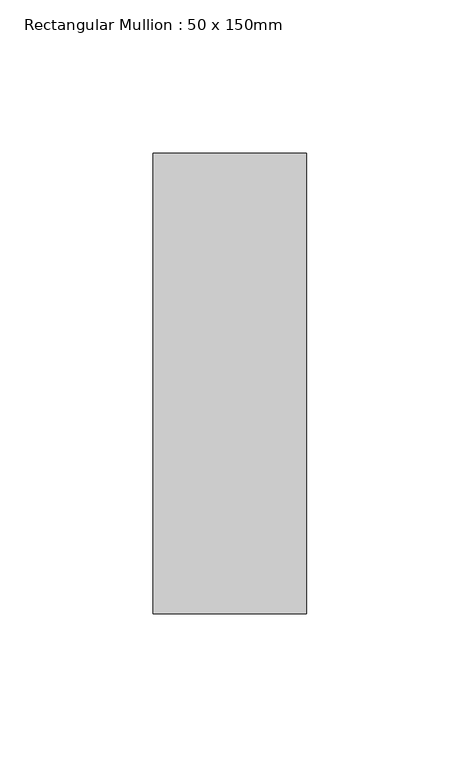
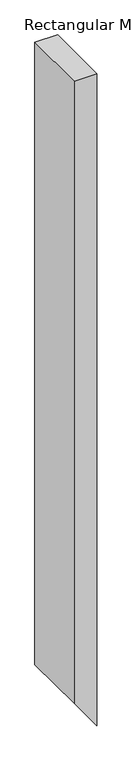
"""IFC4 building model written with IfcOpenShell, lengths in millimetres: member geometry, Rectangular Mullion : 50 x 150mm."""

from ifc_helpers import new_model, si_unit, frame, origin, place, context, project, spatial, polyline, outline, extrude, source, transform, mapped, element, save


def rectangular_mullion_50_x_150mm_e2de7342(model_context):
    return source(origin(), model_context, "Body", "SweptSolid", [
        extrude(outline(polyline([(0.0, 0.0), (0.0, -50.0), (-1454.5967244, -50.0), (-1524.0, 0.0), (0.0, 0.0)])), frame((0.0, -75.0, 0.0), z_axis=(0.0, 1.0, 0.0), x_axis=(0.0, 0.0, 1.0)), (0.0, 0.0, 1.0), 150.0),
    ])


if __name__ == "__main__":
    model = new_model("IFC4")
    model_context = context("Model", 3, world=origin())
    ifc_project = project(units=[si_unit("LENGTHUNIT", "METRE", prefix="MILLI")], contexts=[model_context])
    site = spatial("IfcSite", under=ifc_project)
    building = spatial("IfcBuilding", under=site)
    placement = place(None, origin())
    rectangular_mullion_50_x_150mm_shape = rectangular_mullion_50_x_150mm_e2de7342(model_context)
    element("IfcMember", 1, ObjectType="Rectangular Mullion : 50 x 150mm", at=placement, inside=building, context=model_context, shape_type="MappedRepresentation", body=[
        mapped(rectangular_mullion_50_x_150mm_shape, transform((0.0, 0.0, 0.0), x_axis=(1.0, 0.0, 0.0), y_axis=(0.0, 1.0, 0.0), z_axis=(0.0, 0.0, 1.0))),
    ])
    save(model, "model.ifc")
